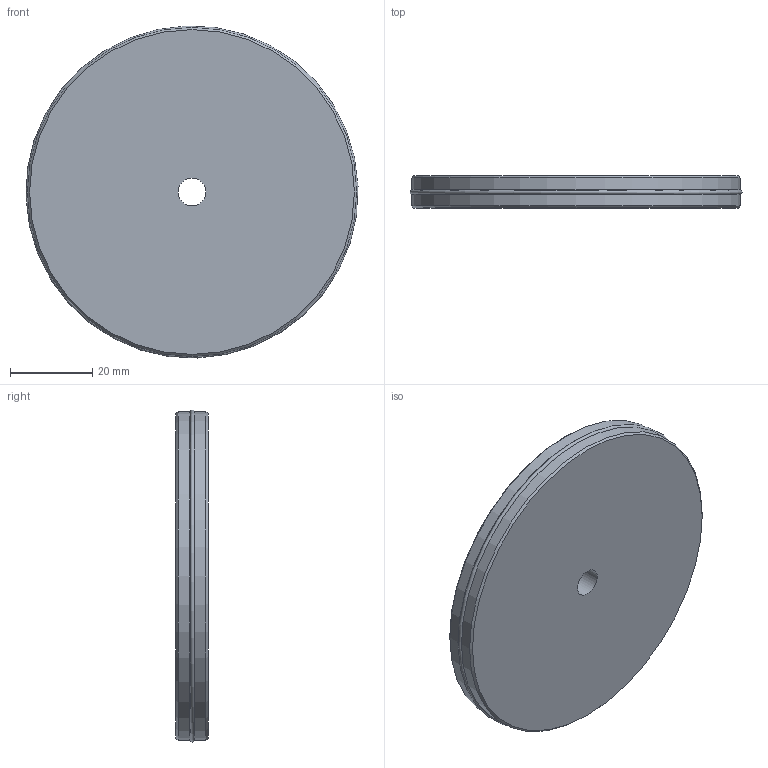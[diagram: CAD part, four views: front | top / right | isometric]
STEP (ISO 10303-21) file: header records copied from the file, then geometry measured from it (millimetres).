
FILE_DESCRIPTION(/* description */ (''),/* implementation_level */ '2;1');
FILE_NAME(/* name */ '\\dc01\daten\CAD\Standard\Daten\3D-Datenbank\ZS\step-Daten\G-ZS160-1.stp',/* time_stamp */ '2019-03-22T09:33:11+01:00',/* author */ ('ysplieth'),/* organization */ (''),/* preprocessor_version */ 'ST-DEVELOPER v17',/* originating_system */ 'Autodesk Inventor 2018',/* authorisation */ '');
FILE_SCHEMA (('AUTOMOTIVE_DESIGN { 1 0 10303 214 3 1 1 }'));
Length unit declared in the file: millimetre
Products named in the file (1): Bauteil1
Bounding box: 80.75 x 7.8 x 80.75 mm (x, y, z)
Volume: 38882.7 mm3; surface area: 13041.8 mm2
Topology: 2 solids, 2 shells, 11 faces, 25 edges, 18 vertices
Faces by surface type: cylinder 4, plane 4, cone 2, torus 1
Full cylindrical faces by diameter (mm): 6.75 x1, 78.8 x1, 80 x2
Entity records: 393 total; most frequent: DIRECTION 68, CARTESIAN_POINT 55, ORIENTED_EDGE 50, AXIS2_PLACEMENT_3D 31, EDGE_CURVE 25, CIRCLE 19, VERTEX_POINT 18, EDGE_LOOP 15
